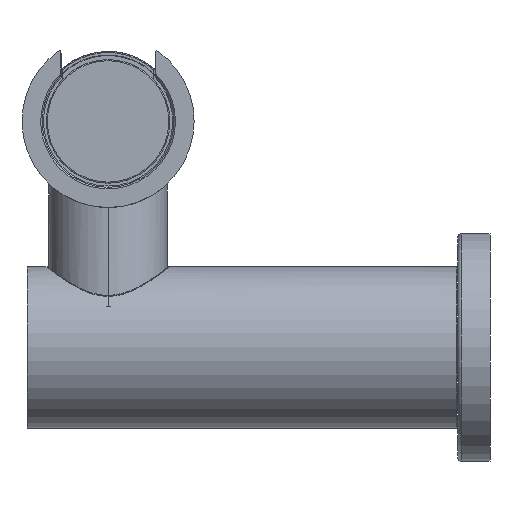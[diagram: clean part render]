
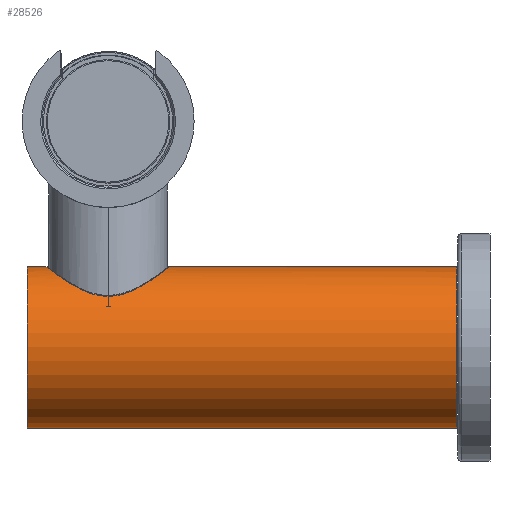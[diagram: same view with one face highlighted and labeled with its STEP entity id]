
A CAD part, front view. The second image highlights one B-rep face of the part: STEP entity #28526.
In plain terms, the highlighted cylindrical face has radius 15 mm (diameter 30 mm), a partial arc.
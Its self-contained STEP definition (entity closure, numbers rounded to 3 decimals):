
#28295=CARTESIAN_POINT('',(-15.,-19.3,-42.02));
#28296=DIRECTION('',(1.,0.,0.));
#28297=DIRECTION('',(0.,0.,1.));
#28298=AXIS2_PLACEMENT_3D('',#28295,#28296,#28297);
#28339=DIRECTION('',(-1.,0.,0.));
#28340=VECTOR('',#28339,79.8);
#28341=CARTESIAN_POINT('',(64.8,-19.3,-57.02));
#28342=LINE('',#28341,#28340);
#28343=CARTESIAN_POINT('',(64.8,-19.3,-42.02));
#28344=DIRECTION('',(1.,0.,0.));
#28345=DIRECTION('',(0.,0.,1.));
#28346=AXIS2_PLACEMENT_3D('',#28343,#28344,#28345);
#28348=DIRECTION('',(-1.,0.,0.));
#28349=VECTOR('',#28348,3.65);
#28350=CARTESIAN_POINT('',(-11.35,-19.3,-27.02));
#28351=LINE('',#28350,#28349);
#28352=CARTESIAN_POINT('',(11.35,-19.3,-27.02));
#28353=CARTESIAN_POINT('',(11.35,-19.727,
-27.02));
#28354=CARTESIAN_POINT('',(11.303,-20.636,
-27.056));
#28355=CARTESIAN_POINT('',(11.035,-22.157,
-27.264));
#28356=CARTESIAN_POINT('',(10.491,-23.811,
-27.679));
#28357=CARTESIAN_POINT('',(9.683,-25.381,
-28.277));
#28358=CARTESIAN_POINT('',(8.748,-26.681,
-28.939));
#28359=CARTESIAN_POINT('',(7.78,-27.711,
-29.584));
#28360=CARTESIAN_POINT('',(6.82,-28.521,
-30.178));
#28361=CARTESIAN_POINT('',(5.887,-29.155,
-30.703));
#28362=CARTESIAN_POINT('',(4.991,-29.647,
-31.155));
#28363=CARTESIAN_POINT('',(4.14,-30.023,
-31.528));
#28364=CARTESIAN_POINT('',(3.329,-30.308,
-31.829));
#28365=CARTESIAN_POINT('',(2.555,-30.517,
-32.06));
#28366=CARTESIAN_POINT('',(1.828,-30.661,
-32.226));
#28367=CARTESIAN_POINT('',(1.078,-30.761,
-32.342));
#28368=CARTESIAN_POINT('',(0.268,-30.81,
-32.402));
#28369=CARTESIAN_POINT('',(-0.536,-30.8,
-32.389));
#28370=CARTESIAN_POINT('',(-1.287,-30.737,
-32.315));
#28371=CARTESIAN_POINT('',(-2.039,-30.626,
-32.184));
#28372=CARTESIAN_POINT('',(-2.855,-30.445,
-31.979));
#28373=CARTESIAN_POINT('',(-3.718,-30.183,
-31.694));
#28374=CARTESIAN_POINT('',(-4.641,-29.815,
-31.317));
#28375=CARTESIAN_POINT('',(-5.623,-29.315,
-30.844));
#28376=CARTESIAN_POINT('',(-6.654,-28.65,
-30.277));
#28377=CARTESIAN_POINT('',(-7.729,-27.768,
-29.619));
#28378=CARTESIAN_POINT('',(-8.804,-26.624,
-28.902));
#28379=CARTESIAN_POINT('',(-9.796,-25.202,
-28.196));
#28380=CARTESIAN_POINT('',(-10.579,-23.59,
-27.613));
#28381=CARTESIAN_POINT('',(-11.067,-22.004,
-27.239));
#28382=CARTESIAN_POINT('',(-11.308,-20.569,
-27.053));
#28383=CARTESIAN_POINT('',(-11.35,-19.705,
-27.02));
#28384=CARTESIAN_POINT('',(-11.35,-19.3,-27.02));
#28386=DIRECTION('',(-1.,0.,0.));
#28387=VECTOR('',#28386,53.45);
#28388=CARTESIAN_POINT('',(64.8,-19.3,-27.02));
#28389=LINE('',#28388,#28387);
#28468=CARTESIAN_POINT('',(-15.,-19.3,-57.02));
#28469=CARTESIAN_POINT('',(-15.,-19.3,-27.02));
#28470=VERTEX_POINT('',#28468);
#28471=VERTEX_POINT('',#28469);
#28472=VERTEX_POINT('',#28352);
#28473=VERTEX_POINT('',#28384);
#28476=CARTESIAN_POINT('',(64.8,-19.3,-27.02));
#28477=CARTESIAN_POINT('',(64.8,-19.3,-57.02));
#28478=VERTEX_POINT('',#28476);
#28479=VERTEX_POINT('',#28477);
#28511=CARTESIAN_POINT('',(65.,-19.3,-42.02));
#28512=DIRECTION('',(1.,0.,0.));
#28513=DIRECTION('',(0.,0.,-1.));
#28514=AXIS2_PLACEMENT_3D('',#28511,#28512,#28513);
#28515=CYLINDRICAL_SURFACE('',#28514,15.);
#28517=ORIENTED_EDGE('',*,*,#28516,.T.);
#28518=ORIENTED_EDGE('',*,*,#28506,.T.);
#28519=ORIENTED_EDGE('',*,*,#28487,.F.);
#28520=ORIENTED_EDGE('',*,*,#28503,.F.);
#28522=ORIENTED_EDGE('',*,*,#28521,.F.);
#28523=ORIENTED_EDGE('',*,*,#28499,.F.);
#28524=EDGE_LOOP('',(#28517,#28518,#28519,#28520,#28522,#28523));
#28525=FACE_OUTER_BOUND('',#28524,.F.);
#28526=ADVANCED_FACE('',(#28525),#28515,.T.);
#28299=CIRCLE('',#28298,15.);
#28347=CIRCLE('',#28346,15.);
#28385=B_SPLINE_CURVE_WITH_KNOTS('',3,(#28352,#28353,#28354,#28355,#28356,
#28357,#28358,#28359,#28360,#28361,#28362,#28363,#28364,#28365,#28366,#28367,
#28368,#28369,#28370,#28371,#28372,#28373,#28374,#28375,#28376,#28377,#28378,
#28379,#28380,#28381,#28382,#28383,#28384),.UNSPECIFIED.,.F.,.F.,(4,1,1,1,1,1,1,
1,1,1,1,1,1,1,1,1,1,1,1,1,1,1,1,1,1,1,1,1,1,1,4),(0.,0.033,
0.067,0.1,0.133,0.167,0.2,
0.233,0.267,0.3,0.333,0.367,
0.4,0.433,0.467,0.5,0.533,
0.567,0.6,0.633,0.667,0.7,
0.733,0.767,0.8,0.833,0.867,
0.9,0.933,0.967,1.),.UNSPECIFIED.);
#28487=EDGE_CURVE('',#28471,#28470,#28299,.T.);
#28499=EDGE_CURVE('',#28478,#28472,#28389,.T.);
#28503=EDGE_CURVE('',#28473,#28471,#28351,.T.);
#28506=EDGE_CURVE('',#28479,#28470,#28342,.T.);
#28516=EDGE_CURVE('',#28478,#28479,#28347,.T.);
#28521=EDGE_CURVE('',#28472,#28473,#28385,.T.);
